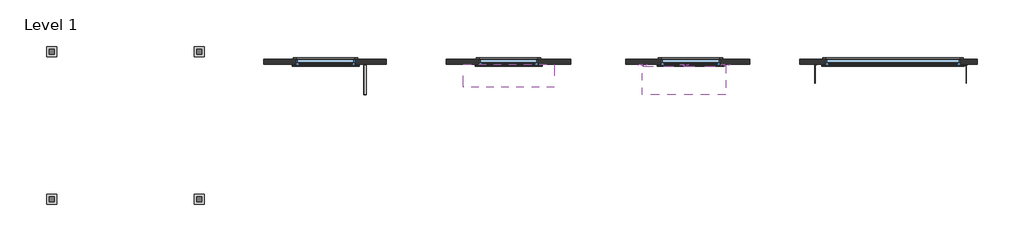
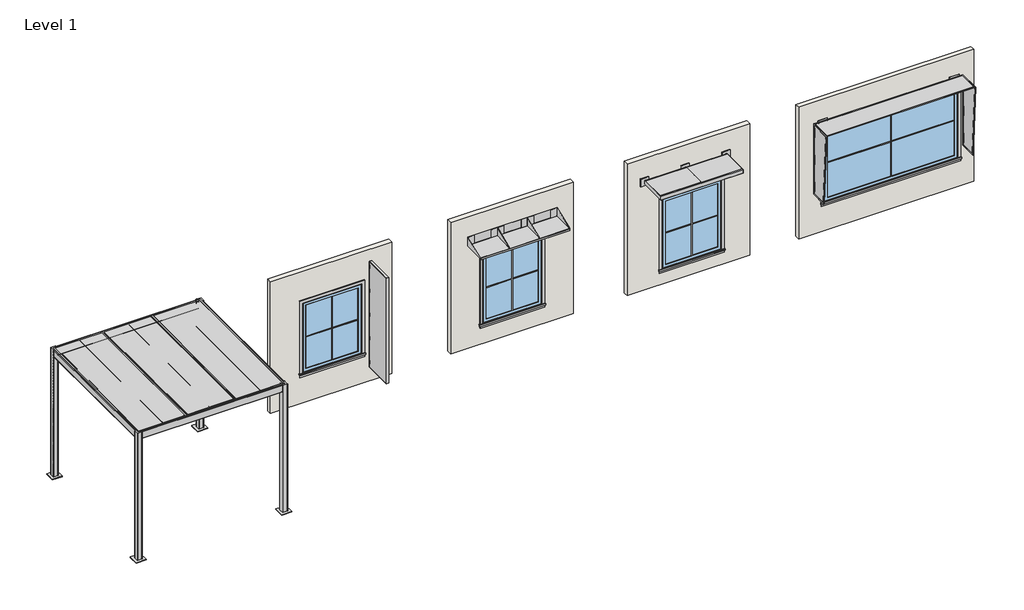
# One storey: 17 proxies, 4 walls, 4 windows.
"""IFC4 building model written with IfcOpenShell, lengths in millimetres."""

from ifc_helpers import new_model, si_unit, frame, origin, place, context, project, spatial, polyline, outline, extrude, transform, mapped, element, save
from components import specialty_equipment_177a956b, specialty_equipment_0ff5c432, specialty_equipment_c06f3a59, m_muntin_pattern_2x2_m_muntin_pattern_2x2_a8ca80a6, m_muntin_pattern_2x2_m_muntin_pattern_2x2_53385f98, m_trim_window_exterior_flat_with_sill_ccc538f8, m_trim_window_exterior_flat_with_sill_2ba75bba, m_trim_window_interior_flat_picture_frame_d8e54864, m_trim_window_interior_flat_picture_frame_c5815004, viva_railings_special_equipment_vertical_sun_control_system_ec77dc1e, viva_railings_special_equipment_wing_sun_control_system_6e11d3c2, m_window_casement_single_right_4_x_5_58560944, m_window_casement_single_right_900_x_1650mm_b086eb34

model = new_model("IFC4")

# Units and contexts
model_context = context("Model", 3, world=origin())
ifc_project = project(units=[si_unit("LENGTHUNIT", "METRE", prefix="MILLI")], contexts=[model_context])

# Site, building, storey
site = spatial("IfcSite", under=ifc_project)
building = spatial("IfcBuilding", under=site)
storey = spatial("IfcBuildingStorey", under=building, Name="Level 1", Elevation=0.0)

# Proxies
placement = place(None, origin())
specialty_equipment_shape = specialty_equipment_177a956b(model_context)
element("IfcBuildingElementProxy", 1, Name="VIVA-Railings_Special-Equipment_Brow-Sun-Control-System : 2’ 0” x 6’ 0” - Aluminum 1/8''", ObjectType="VIVA-Railings_Special-Equipment_Brow-Sun-Control-System : 2’ 0” x 6’ 0” - Aluminum 1/8''", at=placement, inside=storey, context=model_context, shape_type="MappedRepresentation", body=[
    mapped(specialty_equipment_shape, transform((-2315.7053084, -13305.760209, 2349.8887604), x_axis=(1.0, 0.0, 0.0), y_axis=(0.0, 0.0, 1.0), z_axis=(0.0, -1.0, 0.0))),
])
specialty_equipment_2_shape = specialty_equipment_0ff5c432(model_context)
element("IfcBuildingElementProxy", 2, Name="VIVA-Railings_Special-Equipment_Shadow-Box-Sun-Control-System : 1’ 6” x 5’ 0” x 10’ 0” - Aluminum 1/8''", ObjectType="VIVA-Railings_Special-Equipment_Shadow-Box-Sun-Control-System : 1’ 6” x 5’ 0” x 10’ 0” - Aluminum 1/8''", at=placement, inside=storey, context=model_context, shape_type="MappedRepresentation", body=[
    mapped(specialty_equipment_2_shape, transform((1840.3696916, -13305.760209, 1620.8108982), x_axis=(1.0, 0.0, 0.0), y_axis=(0.0, 0.0, 1.0), z_axis=(0.0, -1.0, 0.0))),
])
specialty_equipment_3_shape = specialty_equipment_c06f3a59(model_context)
element("IfcBuildingElementProxy", 3, Name="VIVA-Railings_Special-Equipment_Shade-Structurel-Sun-Control-System : 10’ 0” x 10’ 0” - Aluminum 1/8''", ObjectType="VIVA-Railings_Special-Equipment_Shade-Structurel-Sun-Control-System : 10’ 0” x 10’ 0” - Aluminum 1/8''", at=placement, inside=storey, context=model_context, shape_type="MappedRepresentation", body=[
    mapped(specialty_equipment_3_shape, transform((-13567.9053084, -14838.2578397, 0.0), x_axis=(1.0, 0.0, 0.0), y_axis=(0.0, 1.0, 0.0), z_axis=(0.0, 0.0, 1.0))),
])
m_muntin_pattern_2x2_m_muntin_pattern_2x2_shape = m_muntin_pattern_2x2_m_muntin_pattern_2x2_a8ca80a6(model_context)
element("IfcBuildingElementProxy", 4, Name="M_Muntin Pattern_2x2 : M_Muntin Pattern_2x2", ObjectType="M_Muntin Pattern_2x2 : M_Muntin Pattern_2x2", at=placement, inside=storey, context=model_context, shape_type="MappedRepresentation", body=[
    mapped(m_muntin_pattern_2x2_m_muntin_pattern_2x2_shape, transform((1900.6946916, -13296.235209, 699.3950206), x_axis=(-1.0, 0.0, 0.0), y_axis=(0.0, -1.0, 0.0), z_axis=(0.0, 0.0, 1.0))),
])
m_muntin_pattern_2x2_m_muntin_pattern_2x2_2_shape = m_muntin_pattern_2x2_m_muntin_pattern_2x2_53385f98(model_context)
element("IfcBuildingElementProxy", 5, Name="M_Muntin Pattern_2x2 : M_Muntin Pattern_2x2", ObjectType="M_Muntin Pattern_2x2 : M_Muntin Pattern_2x2", at=placement, inside=storey, context=model_context, shape_type="MappedRepresentation", body=[
    mapped(m_muntin_pattern_2x2_m_muntin_pattern_2x2_2_shape, transform((-5839.9553084, -13296.235209, 510.482828), x_axis=(-1.0, 0.0, 0.0), y_axis=(0.0, -1.0, 0.0), z_axis=(0.0, 0.0, 1.0))),
])
element("IfcBuildingElementProxy", 6, Name="M_Muntin Pattern_2x2 : M_Muntin Pattern_2x2", ObjectType="M_Muntin Pattern_2x2 : M_Muntin Pattern_2x2", at=placement, inside=storey, context=model_context, shape_type="MappedRepresentation", body=[
    mapped(m_muntin_pattern_2x2_m_muntin_pattern_2x2_2_shape, transform((-9523.283304, -13296.235209, 731.6491608), x_axis=(-1.0, 0.0, 0.0), y_axis=(0.0, -1.0, 0.0), z_axis=(0.0, 0.0, 1.0))),
])
element("IfcBuildingElementProxy", 7, Name="M_Muntin Pattern_2x2 : M_Muntin Pattern_2x2", ObjectType="M_Muntin Pattern_2x2 : M_Muntin Pattern_2x2", at=placement, inside=storey, context=model_context, shape_type="MappedRepresentation", body=[
    mapped(m_muntin_pattern_2x2_m_muntin_pattern_2x2_2_shape, transform((-2171.4948041, -13296.235209, 410.3689386), x_axis=(-1.0, 0.0, 0.0), y_axis=(0.0, -1.0, 0.0), z_axis=(0.0, 0.0, 1.0))),
])
m_trim_window_exterior_flat_with_sill_shape = m_trim_window_exterior_flat_with_sill_ccc538f8(model_context)
element("IfcBuildingElementProxy", 8, Name="M_Trim-Window-Exterior-Flat : with Sill", ObjectType="M_Trim-Window-Exterior-Flat : with Sill", at=placement, inside=storey, context=model_context, shape_type="MappedRepresentation", body=[
    mapped(m_trim_window_exterior_flat_with_sill_shape, transform((1900.6946916, -13305.760209, 2279.5450206), x_axis=(1.0, 0.0, 0.0), y_axis=(0.0, 0.0, 1.0), z_axis=(0.0, -1.0, 0.0))),
])
m_trim_window_exterior_flat_with_sill_2_shape = m_trim_window_exterior_flat_with_sill_2ba75bba(model_context)
element("IfcBuildingElementProxy", 9, Name="M_Trim-Window-Exterior-Flat : with Sill", ObjectType="M_Trim-Window-Exterior-Flat : with Sill", at=placement, inside=storey, context=model_context, shape_type="MappedRepresentation", body=[
    mapped(m_trim_window_exterior_flat_with_sill_2_shape, transform((-5839.9553084, -13305.760209, 1949.632828), x_axis=(1.0, 0.0, 0.0), y_axis=(0.0, 0.0, 1.0), z_axis=(0.0, -1.0, 0.0))),
])
element("IfcBuildingElementProxy", 10, Name="M_Trim-Window-Exterior-Flat : with Sill", ObjectType="M_Trim-Window-Exterior-Flat : with Sill", at=placement, inside=storey, context=model_context, shape_type="MappedRepresentation", body=[
    mapped(m_trim_window_exterior_flat_with_sill_2_shape, transform((-9523.283304, -13305.760209, 2170.7991608), x_axis=(1.0, 0.0, 0.0), y_axis=(0.0, 0.0, 1.0), z_axis=(0.0, -1.0, 0.0))),
])
element("IfcBuildingElementProxy", 11, Name="M_Trim-Window-Exterior-Flat : with Sill", ObjectType="M_Trim-Window-Exterior-Flat : with Sill", at=placement, inside=storey, context=model_context, shape_type="MappedRepresentation", body=[
    mapped(m_trim_window_exterior_flat_with_sill_2_shape, transform((-2171.4948041, -13305.760209, 1849.5189386), x_axis=(1.0, 0.0, 0.0), y_axis=(0.0, 0.0, 1.0), z_axis=(0.0, -1.0, 0.0))),
])
m_trim_window_interior_flat_picture_frame_shape = m_trim_window_interior_flat_picture_frame_d8e54864(model_context)
element("IfcBuildingElementProxy", 12, Name="M_Trim-Window-Interior-Flat : Picture Frame", ObjectType="M_Trim-Window-Interior-Flat : Picture Frame", at=placement, inside=storey, context=model_context, shape_type="MappedRepresentation", body=[
    mapped(m_trim_window_interior_flat_picture_frame_shape, transform((1900.6946916, -13204.160209, 2279.5450206), x_axis=(-1.0, 0.0, 0.0), y_axis=(0.0, 0.0, 1.0), z_axis=(0.0, 1.0, 0.0))),
])
m_trim_window_interior_flat_picture_frame_2_shape = m_trim_window_interior_flat_picture_frame_c5815004(model_context)
element("IfcBuildingElementProxy", 13, Name="M_Trim-Window-Interior-Flat : Picture Frame", ObjectType="M_Trim-Window-Interior-Flat : Picture Frame", at=placement, inside=storey, context=model_context, shape_type="MappedRepresentation", body=[
    mapped(m_trim_window_interior_flat_picture_frame_2_shape, transform((-5839.9553084, -13204.160209, 1949.632828), x_axis=(-1.0, 0.0, 0.0), y_axis=(0.0, 0.0, 1.0), z_axis=(0.0, 1.0, 0.0))),
])
element("IfcBuildingElementProxy", 14, Name="M_Trim-Window-Interior-Flat : Picture Frame", ObjectType="M_Trim-Window-Interior-Flat : Picture Frame", at=placement, inside=storey, context=model_context, shape_type="MappedRepresentation", body=[
    mapped(m_trim_window_interior_flat_picture_frame_2_shape, transform((-9523.283304, -13204.160209, 2170.7991608), x_axis=(-1.0, 0.0, 0.0), y_axis=(0.0, 0.0, 1.0), z_axis=(0.0, 1.0, 0.0))),
])
element("IfcBuildingElementProxy", 15, Name="M_Trim-Window-Interior-Flat : Picture Frame", ObjectType="M_Trim-Window-Interior-Flat : Picture Frame", at=placement, inside=storey, context=model_context, shape_type="MappedRepresentation", body=[
    mapped(m_trim_window_interior_flat_picture_frame_2_shape, transform((-2171.4948041, -13204.160209, 1849.5189386), x_axis=(-1.0, 0.0, 0.0), y_axis=(0.0, 0.0, 1.0), z_axis=(0.0, 1.0, 0.0))),
])
viva_railings_special_equipment_vertical_sun_control_system_shape = viva_railings_special_equipment_vertical_sun_control_system_ec77dc1e(model_context)
element("IfcBuildingElementProxy", 16, Name="VIVA-Railings_Special-Equipment_Vertical-Sun-Control-System : 2’ 0” x 7’ 6” - Aluminum 1/8''", ObjectType="VIVA-Railings_Special-Equipment_Vertical-Sun-Control-System : 2’ 0” x 7’ 6” - Aluminum 1/8''", at=placement, inside=storey, context=model_context, shape_type="MappedRepresentation", body=[
    mapped(viva_railings_special_equipment_vertical_sun_control_system_shape, transform((-8741.9053084, -13305.760209, 1447.8), x_axis=(1.0, 0.0, 0.0), y_axis=(0.0, 0.0, 1.0), z_axis=(0.0, -1.0, 0.0))),
])
viva_railings_special_equipment_wing_sun_control_system_shape = viva_railings_special_equipment_wing_sun_control_system_6e11d3c2(model_context)
element("IfcBuildingElementProxy", 17, Name="VIVA-Railings_Special-Equipment_Wing-Sun-Control-System : 1’ 6” x 6’ - Stainless Steel 0.078''", ObjectType="VIVA-Railings_Special-Equipment_Wing-Sun-Control-System : 1’ 6” x 6’ - Stainless Steel 0.078''", at=placement, inside=storey, context=model_context, shape_type="MappedRepresentation", body=[
    mapped(viva_railings_special_equipment_wing_sun_control_system_shape, transform((-5973.3053084, -13305.760209, 2300.7783654), x_axis=(1.0, 0.0, 0.0), y_axis=(0.0, 0.0, 1.0), z_axis=(0.0, -1.0, 0.0))),
])

# Walls
element("IfcWall", 18, ObjectType="Generic - 4\" Brick", at=placement, inside=storey, context=model_context, shape_type="SweptSolid", body=[
    extrude(outline(polyline([(0.0, -4589.0053084), (2844.8, -4589.0053084), (2844.8, -7090.9053084), (0.0, -7090.9053084), (0.0, -4589.0053084)]), holes=[polyline([(1949.632828, -6442.0553084), (1949.632828, -5237.8553084), (440.632828, -5237.8553084), (440.632828, -6442.0553084), (1949.632828, -6442.0553084)])]), frame((0.0, -13305.760209, 0.0), z_axis=(0.0, 1.0, 0.0), x_axis=(0.0, 0.0, 1.0)), (0.0, 0.0, 1.0), 101.6),
])
element("IfcWall", 19, ObjectType="Generic - 4\" Brick", at=placement, inside=storey, context=model_context, shape_type="SweptSolid", body=[
    extrude(outline(polyline([(0.0, -8297.4053084), (2844.8, -8297.4053084), (2844.8, -10773.9053084), (0.0, -10773.9053084), (0.0, -8297.4053084)]), holes=[polyline([(2170.7991608, -10125.383304), (2170.7991608, -8921.183304), (661.7991608, -8921.183304), (661.7991608, -10125.383304), (2170.7991608, -10125.383304)])]), frame((0.0, -13305.760209, 0.0), z_axis=(0.0, 1.0, 0.0), x_axis=(0.0, 0.0, 1.0)), (0.0, 0.0, 1.0), 101.6),
])
element("IfcWall", 20, ObjectType="Generic - 4\" Brick", at=placement, inside=storey, context=model_context, shape_type="SweptSolid", body=[
    extrude(outline(polyline([(0.0, -982.2053084), (2844.8, -982.2053084), (2844.8, -3484.1053084), (0.0, -3484.1053084), (0.0, -982.2053084)]), holes=[polyline([(1849.5189386, -2773.5948041), (1849.5189386, -1569.3948041), (340.5189386, -1569.3948041), (340.5189386, -2773.5948041), (1849.5189386, -2773.5948041)])]), frame((0.0, -13305.760209, 0.0), z_axis=(0.0, 1.0, 0.0), x_axis=(0.0, 0.0, 1.0)), (0.0, 0.0, 1.0), 101.6),
])
element("IfcWall", 21, ObjectType="Generic - 4\" Brick", at=placement, inside=storey, context=model_context, shape_type="SweptSolid", body=[
    extrude(outline(polyline([(0.0, 3602.4946916), (2844.8, 3602.4946916), (2844.8, 21.0946916), (0.0, 21.0946916), (0.0, 3602.4946916)]), holes=[polyline([(2279.5450206, 536.2970354), (2279.5450206, 3265.0923479), (629.5450206, 3265.0923479), (629.5450206, 536.2970354), (2279.5450206, 536.2970354)])]), frame((0.0, -13305.760209, 0.0), z_axis=(0.0, 1.0, 0.0), x_axis=(0.0, 0.0, 1.0)), (0.0, 0.0, 1.0), 101.6),
])

# Windows
m_window_casement_single_right_4_x_5_shape = m_window_casement_single_right_4_x_5_58560944(model_context)
element("IfcWindow", 22, ObjectType="M_Window-Casement-Single_Right : 4' x 5'", at=placement, inside=storey, context=model_context, shape_type="MappedRepresentation", body=[
    mapped(m_window_casement_single_right_4_x_5_shape, transform((-5839.9553084, -13254.960209, -459.367172), x_axis=(-1.0, 0.0, 0.0), y_axis=(0.0, -1.0, 0.0), z_axis=(0.0, 0.0, 1.0))),
])
element("IfcWindow", 23, ObjectType="M_Window-Casement-Single_Right : 4' x 5'", at=placement, inside=storey, context=model_context, shape_type="MappedRepresentation", body=[
    mapped(m_window_casement_single_right_4_x_5_shape, transform((-9523.283304, -13254.960209, -238.2008392), x_axis=(-1.0, 0.0, 0.0), y_axis=(0.0, -1.0, 0.0), z_axis=(0.0, 0.0, 1.0))),
])
element("IfcWindow", 24, ObjectType="M_Window-Casement-Single_Right : 4' x 5'", at=placement, inside=storey, context=model_context, shape_type="MappedRepresentation", body=[
    mapped(m_window_casement_single_right_4_x_5_shape, transform((-2171.4948041, -13254.960209, -559.4810614), x_axis=(-1.0, 0.0, 0.0), y_axis=(0.0, -1.0, 0.0), z_axis=(0.0, 0.0, 1.0))),
])
m_window_casement_single_right_900_x_1650mm_shape = m_window_casement_single_right_900_x_1650mm_b086eb34(model_context)
element("IfcWindow", 25, ObjectType="M_Window-Casement-Single_Right : 900 x 1650mm", at=placement, inside=storey, context=model_context, shape_type="MappedRepresentation", body=[
    mapped(m_window_casement_single_right_900_x_1650mm_shape, transform((1900.6946916, -13254.960209, -270.4549794), x_axis=(-1.0, 0.0, 0.0), y_axis=(0.0, -1.0, 0.0), z_axis=(0.0, 0.0, 1.0))),
])

save(model, "model.ifc")
